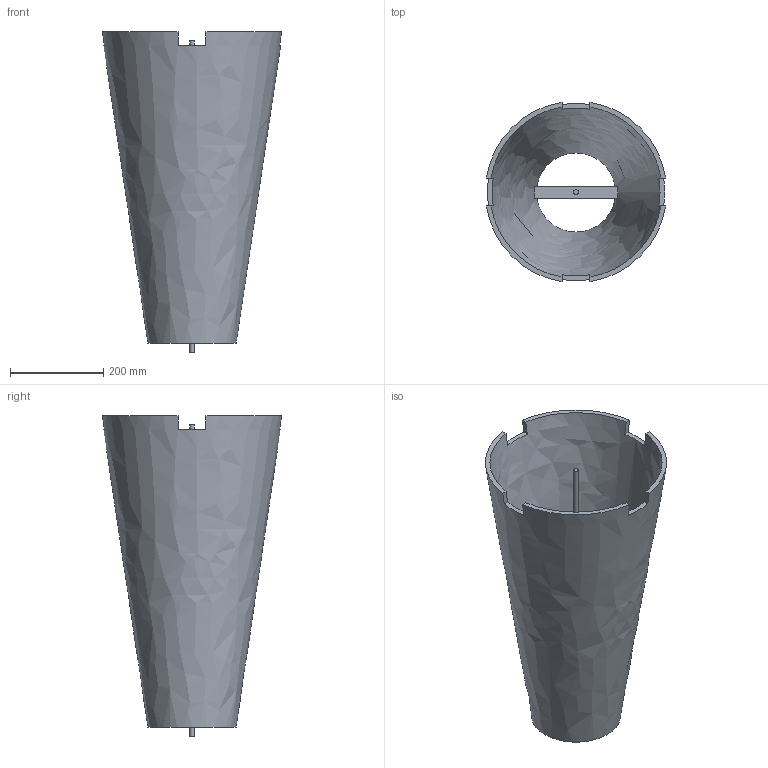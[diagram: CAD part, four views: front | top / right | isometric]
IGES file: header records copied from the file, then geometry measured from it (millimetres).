
Start section: Data from Parasolid IGES Translator 20.0.26, Copyright(c) 2006 Siemens P LM Software. All Rights Reserved.
Global section: file name: 45829.igs; native system: By Siemens PLM Incorporated; preprocessor: XPlus GENERIC/IGES 20.0.26; author: Noname; organization: Noname; date: 20210420.195143; units: millimetre
Bounding box: 385.37 x 385.37 x 689 mm (x, y, z)
Surface area: 1228224.7 mm2 (no closed solid volume)
Topology: 0 solids, 0 shells, 32 faces, 162 edges, 159 vertices
Faces by surface type: extrusion 29, revolution 3
